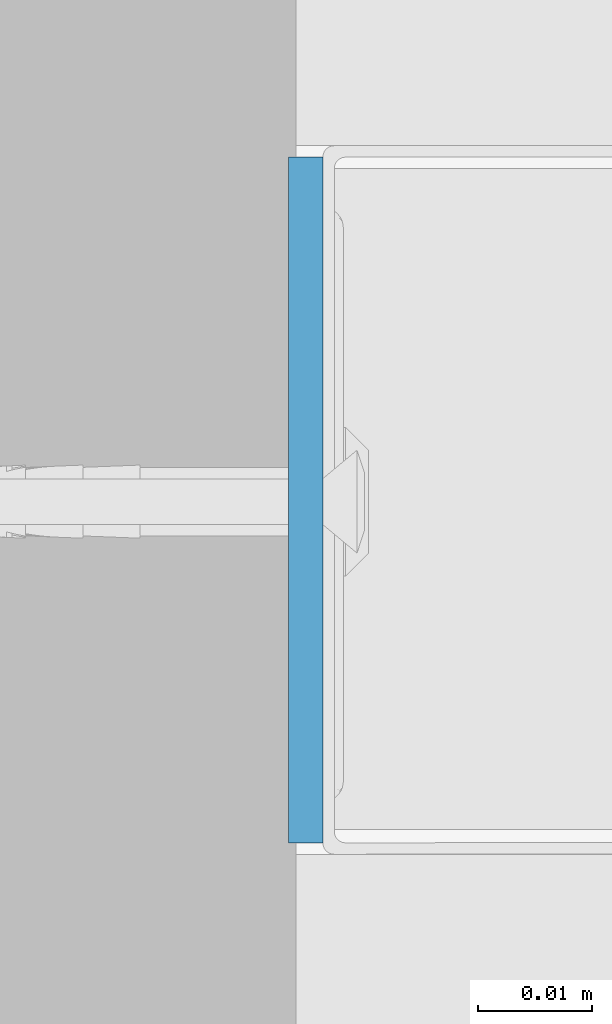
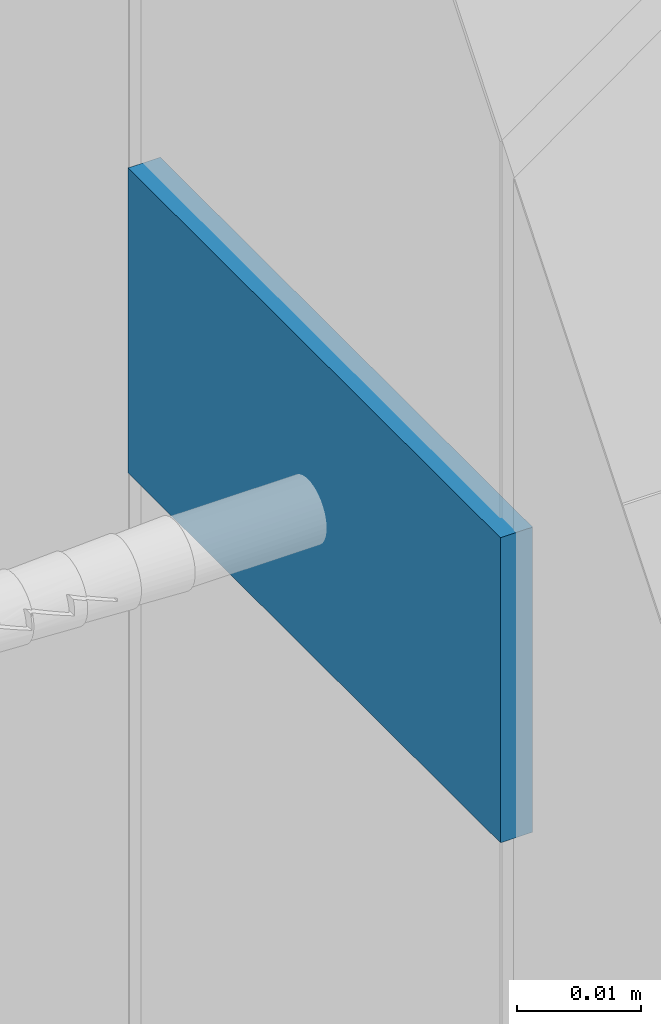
# One storey, part 30 of 62: 1 wall.
"""IFC2X3 building model written with IfcOpenShell, lengths in millimetres."""

from ifc_helpers import new_model, si_unit, frame, origin_with_axes, place, context, subcontext, project, spatial, faceted_brep, material, type_object, element, save


model = new_model("IFC2X3")

# Units and contexts
model_context = context("Model", 3, world=origin_with_axes())
body_context = subcontext(model_context, "Body", "Model", "MODEL_VIEW")
ifc_project = project(units=[si_unit("LENGTHUNIT", "METRE", prefix="MILLI"), si_unit("AREAUNIT", "SQUARE_METRE"), si_unit("VOLUMEUNIT", "CUBIC_METRE")], contexts=[model_context])

# Site, building, storey
site_placement = place(None, frame((2152.14102611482, -2015.0250894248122, 57.61556563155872), z_axis=(0.0, 0.0, 1.0), x_axis=(-1.1102230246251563e-16, 1.0, 0.0)))
site = spatial("IfcSite", under=ifc_project, at=site_placement, Name="Default Site", CompositionType="ELEMENT")
building_placement = place(site_placement, origin_with_axes())
building = spatial("IfcBuilding", under=site, at=building_placement, Name="Default Building", CompositionType="ELEMENT")
storey_placement = place(building_placement, origin_with_axes())
storey = spatial("IfcBuildingStorey", under=building, at=storey_placement, Name="Default Building Storey", CompositionType="ELEMENT", Elevation=57.61556563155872)

# Wall
ifc_material = material(Name="Default")
wall_type = type_object("IfcWallType", Name="Taśma uszczelniająca piankowa RIGIPS szer.30mm#9", PredefinedType="NOTDEFINED")
wall_placement = place(storey_placement, frame((2808.037086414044, 2019.778611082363, 1278.8496604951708), z_axis=(0.0, 0.0, 1.0), x_axis=(1.0, 0.0, 0.0)))
element("IfcWall", 1, at=wall_placement, inside=storey, type_object=wall_type, material=ifc_material, Name="Taśma uszczelniająca piankowa RIGIPS szer.30mm", context=body_context, shape_type="Brep", body=[
    faceted_brep([(59.99999865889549, 0.0, 4.511946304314e-12), (0.0, 0.0, 0.0), (1.0828671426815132e-12, -2.2379254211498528e-11, -29.999999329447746), (59.99999865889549, -2.2379254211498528e-11, -29.999999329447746), (0.0, 3.000000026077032, 0.0), (1.0828671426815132e-12, 3.000000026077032, -29.999999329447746), (59.99999865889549, 3.000000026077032, 0.0), (59.99999865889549, 3.000000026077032, -29.999999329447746)], [[[0, 1, 2, 3]], [[1, 4, 5, 2]], [[4, 6, 7, 5]], [[6, 0, 3, 7]], [[7, 3, 2, 5]], [[0, 6, 4, 1]]]),
])

save(model, "model.ifc")
